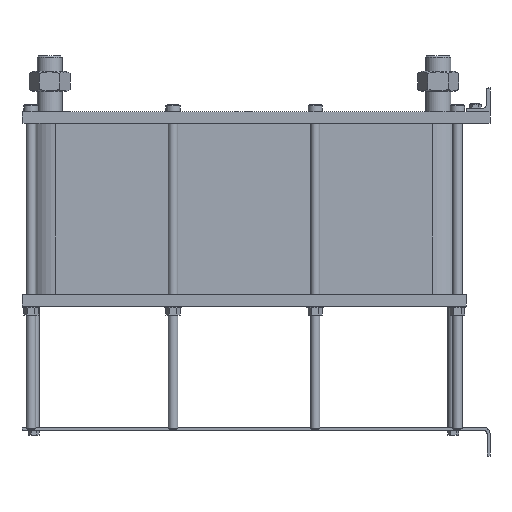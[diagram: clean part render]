
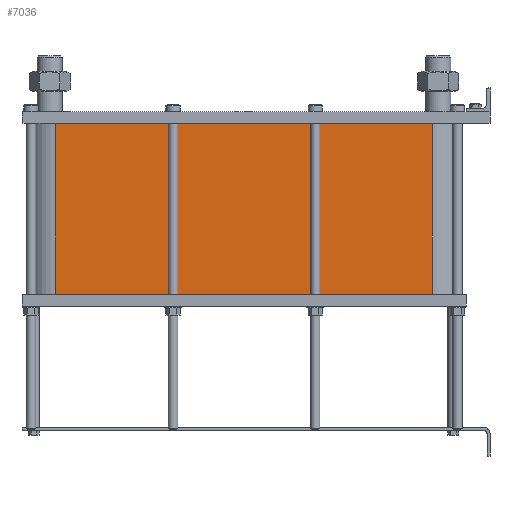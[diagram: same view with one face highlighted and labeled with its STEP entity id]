
A CAD part, left-side view. The second image highlights one B-rep face of the part: STEP entity #7036.
In plain terms, the highlighted planar face has unit normal (-1, 0, 0).
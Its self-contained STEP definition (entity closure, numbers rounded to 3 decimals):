
#999=LINE('',#15640,#1553);
#1031=LINE('',#15723,#1585);
#1032=LINE('',#15726,#1586);
#1033=LINE('',#15727,#1587);
#1553=VECTOR('',#9658,10.);
#1585=VECTOR('',#9736,10.);
#1586=VECTOR('',#9741,10.);
#1587=VECTOR('',#9742,10.);
#2117=FACE_OUTER_BOUND('',#2671,.T.);
#2671=EDGE_LOOP('',(#6246,#6247,#6248,#6249));
#3527=VERTEX_POINT('',#15634);
#3529=VERTEX_POINT('',#15638);
#3556=VERTEX_POINT('',#15720);
#3557=VERTEX_POINT('',#15722);
#4425=EDGE_CURVE('',#3529,#3527,#999,.T.);
#4466=EDGE_CURVE('',#3557,#3556,#1031,.T.);
#4468=EDGE_CURVE('',#3527,#3556,#1032,.T.);
#4469=EDGE_CURVE('',#3557,#3529,#1033,.T.);
#6246=ORIENTED_EDGE('',*,*,#4468,.F.);
#6247=ORIENTED_EDGE('',*,*,#4425,.F.);
#6248=ORIENTED_EDGE('',*,*,#4469,.F.);
#6249=ORIENTED_EDGE('',*,*,#4466,.T.);
#6608=PLANE('',#7812);
#7036=ADVANCED_FACE('',(#2117),#6608,.T.);
#7812=AXIS2_PLACEMENT_3D('',#15725,#9739,#9740);
#9658=DIRECTION('',(0.,0.,-1.));
#9736=DIRECTION('',(0.,0.,-1.));
#9739=DIRECTION('center_axis',(-1.,0.,0.));
#9740=DIRECTION('ref_axis',(0.,1.,0.));
#9741=DIRECTION('',(0.,1.,0.));
#9742=DIRECTION('',(0.,-1.,0.));
#15634=CARTESIAN_POINT('',(-72.,97.5,-288.3));
#15638=CARTESIAN_POINT('',(-72.,97.5,0.));
#15640=CARTESIAN_POINT('',(-72.,97.5,0.));
#15720=CARTESIAN_POINT('',(-72.,733.5,-288.3));
#15722=CARTESIAN_POINT('',(-72.,733.5,0.));
#15723=CARTESIAN_POINT('',(-72.,733.5,0.));
#15725=CARTESIAN_POINT('Origin',(-72.,97.5,0.));
#15726=CARTESIAN_POINT('',(-72.,256.5,-288.3));
#15727=CARTESIAN_POINT('',(-72.,733.5,0.));
